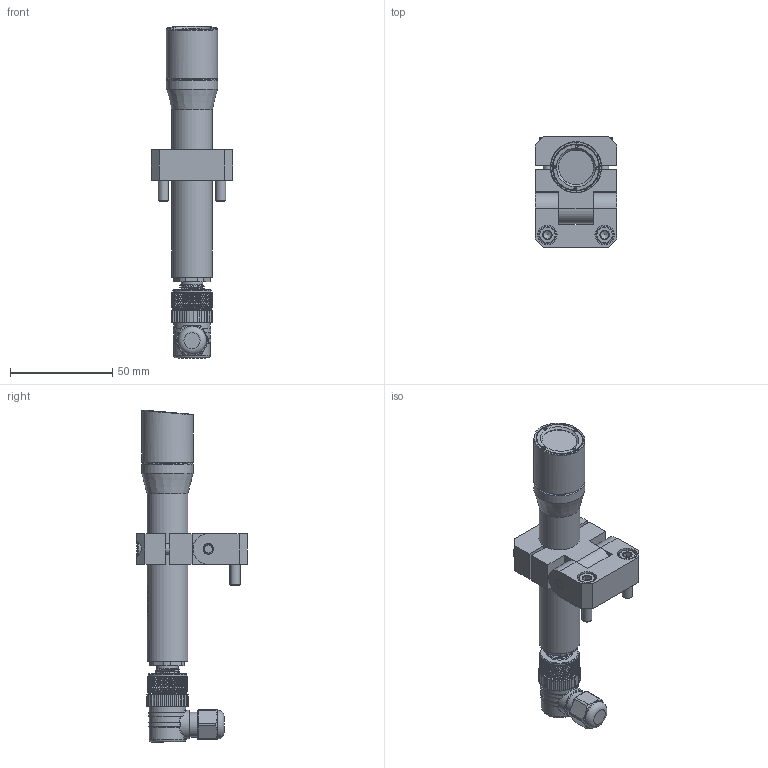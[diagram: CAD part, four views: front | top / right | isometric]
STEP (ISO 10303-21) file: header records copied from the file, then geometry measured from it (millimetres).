
FILE_DESCRIPTION (( 'STEP AP214' ), '1' );
FILE_NAME ('B2 HD-Kipp.STEP', '2017-09-11T13:45:41', ( 'admin' ), ( '' ), 'SwSTEP 2.0', 'SolidWorks 2016', '' );
FILE_SCHEMA (( 'AUTOMOTIVE_DESIGN' ));
Length unit declared in the file: millimetre
Products named in the file (16): 0004349 (opt000020) HD-Glasscheibe; 0013463 (mec010497) HD-Fensterring; 0013464 (mec010498) HD-Kappe; e000490 713.99-0430-00-04 Winkelstecker; ele0498 763-09-3431-77-04; 0002734 (mec005530) Geh鋟seh黮se; DIN 912 8.8 VZ M05.0_M5 x 035; DIN 433 VZ_M05.0; DIN 912 8.8 VZ M05.0_M5 x 020; 0003587 (mec013919) B2-HD-Kipp Unterteil; 0003587 (mec013919) B2-HD-Kipp Oberteil; B2 HD-Kipp; HD-2 mit Schraubfenster; BG Fensterkappe HD-2; 0003752 (nor000205) O-Ring 21,0x1,0; 0003988 (nor010153) O-Ring 18,0x1,0
Assembly tree (18 placements, depth 4):
  B2 HD-Kipp
    0003587 (mec013919) B2-HD-Kipp Oberteil
    0003587 (mec013919) B2-HD-Kipp Unterteil
    DIN 912 8.8 VZ M05.0_M5 x 020  x4
    DIN 433 VZ_M05.0
    DIN 912 8.8 VZ M05.0_M5 x 035
    HD-2 mit Schraubfenster
      0002734 (mec005530) Geh鋟seh黮se
      ele0498 763-09-3431-77-04
      e000490 713.99-0430-00-04 Winkelstecker
      BG Fensterkappe HD-2
        0013464 (mec010498) HD-Kappe
        0013463 (mec010497) HD-Fensterring
        0004349 (opt000020) HD-Glasscheibe
        0003988 (nor010153) O-Ring 18,0x1,0
        0003752 (nor000205) O-Ring 21,0x1,0
Bounding box: 40 x 54 x 162.37 mm (x, y, z)
Volume: 56812.2 mm3; surface area: 39243.2 mm2
Topology: 17 solids, 17 shells, 2885 faces, 6393 edges, 3579 vertices
Faces by surface type: bspline 1857, cylinder 580, cone 221, plane 193, torus 30, sphere 4
Full cylindrical faces by diameter (mm): 1 x12, 1.3 x4, 4.2 x3, 5 x5, 5.3 x7, 8 x2, 8.5 x5, 9 x1, 9.5 x5, 10.3 x1, 10.5 x1, 12 x2, 12.3 x1, 12.9 x1, 13.9 x1, 14 x2, 15 x1, 15.5 x1, 16 x1, 16.8 x1, 17 x1, 17.8 x2, 18.8 x1, 19 x1, 19.6 x1, 19.85 x1, 20 x1, 21 x1, 22 x2, 22.5 x1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
Entity records: 105375 total; most frequent: CARTESIAN_POINT 45007, ORIENTED_EDGE 12132, EDGE_CURVE 6066, DIRECTION 3484, VERTEX_POINT 3449, EDGE_LOOP 3019, FACE_OUTER_BOUND 2898, ADVANCED_FACE 2819
